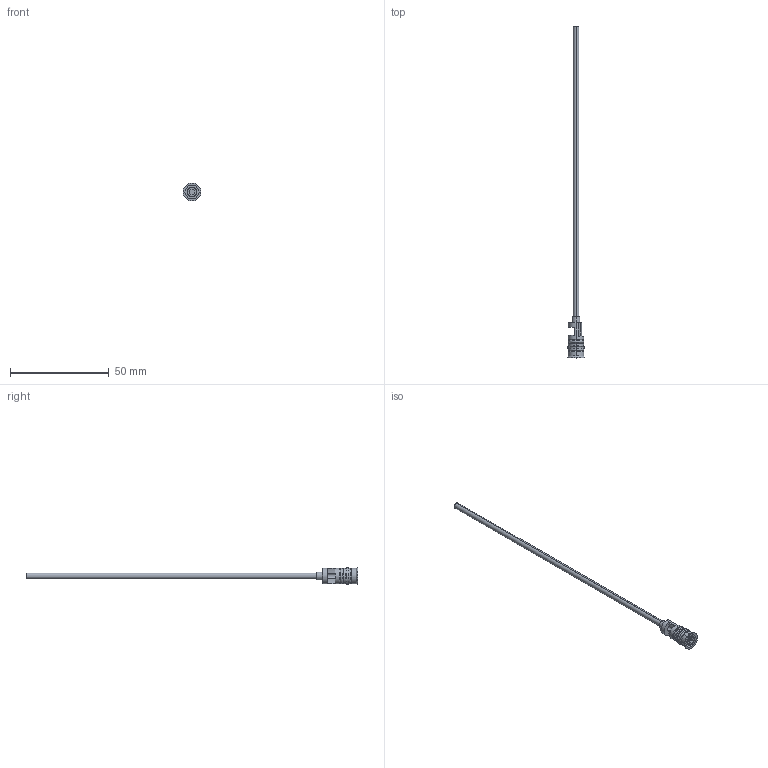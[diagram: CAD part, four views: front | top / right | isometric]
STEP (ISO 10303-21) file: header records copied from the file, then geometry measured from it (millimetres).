
FILE_DESCRIPTION (( 'STEP AP203' ), '1' );
FILE_NAME ('RF-8Fx150-3.STEP', '2015-11-25T08:49:35', ( 'Balzi' ), ( '' ), 'SwSTEP 2.0', 'SolidWorks 2015', '' );
FILE_SCHEMA (( 'CONFIG_CONTROL_DESIGN' ));
Length unit declared in the file: millimetre
Products named in the file (1): RF-8Fx150-3
Bounding box: 9 x 168 x 9 mm (x, y, z)
Volume: 968.5 mm3; surface area: 3412.5 mm2
Topology: 1 solids, 1 shells, 77 faces, 176 edges, 108 vertices
Faces by surface type: cylinder 28, plane 25, torus 12, cone 12
Entity records: 2268 total; most frequent: DIRECTION 419, CARTESIAN_POINT 381, ORIENTED_EDGE 352, EDGE_CURVE 176, AXIS2_PLACEMENT_3D 170, VERTEX_POINT 108, CIRCLE 92, EDGE_LOOP 86
